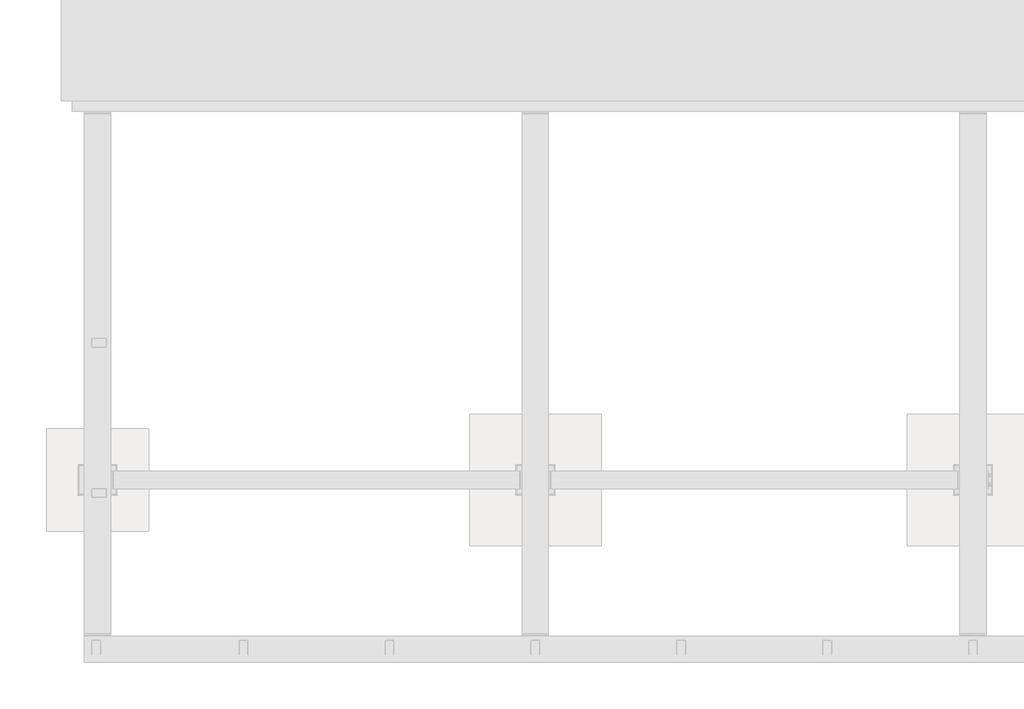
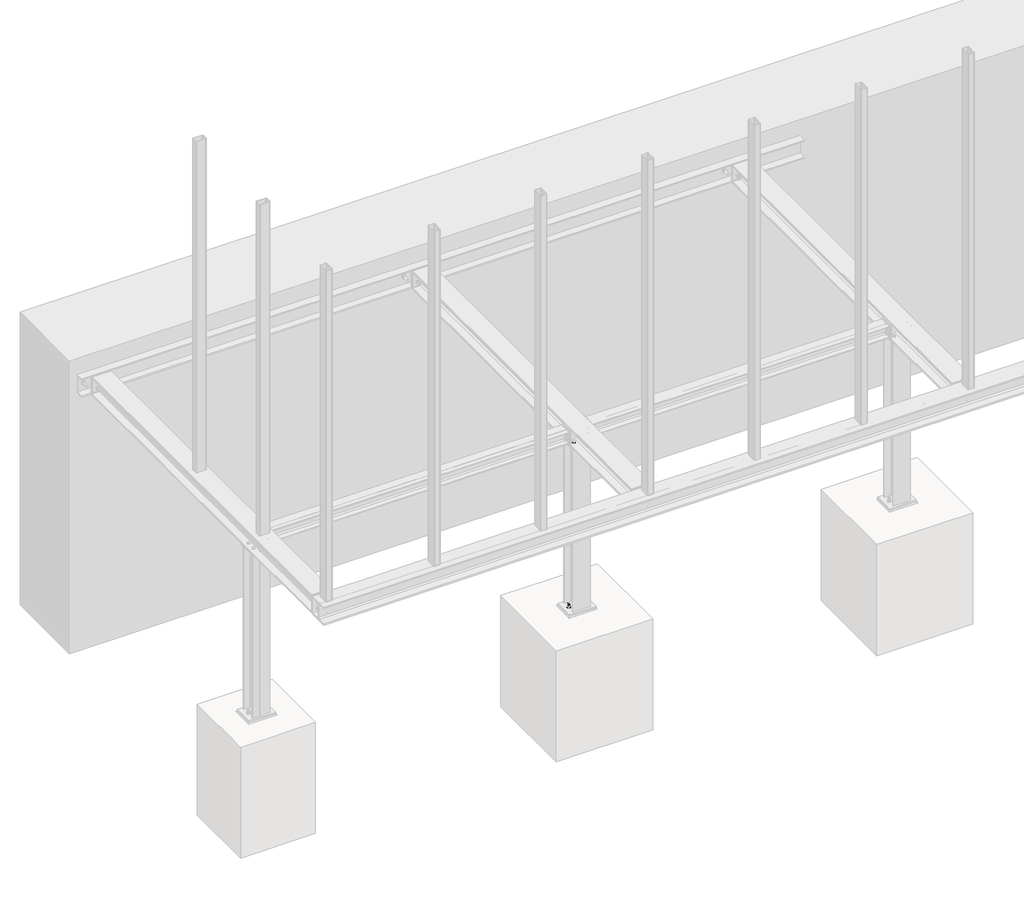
# One storey, part 19 of 31: 4 assemblies.
"""IFC4 building model written with IfcOpenShell, lengths in millimetres."""

import ifcopenshell
import ifcopenshell.guid

model = None  # the IFC model being written
_history = None  # IfcOwnerHistory: only IFC2X3 demands one
_inside = {}  # id of a spatial element -> (the spatial element, [elements in it])
_under = {}  # id of a project, library or spatial element -> (it, [spatial elements below it])
_declared = {}  # id of a project -> (the project, [libraries it declares])
_typed = {}  # id of a type object -> (the type object, [elements of that type])
_made_of = {}  # id of a material, layer set ... -> (it, [elements and type objects made of it])


def new_model(schema):
    """Start an empty IFC model of exactly this schema.

    Asked for "IFC4X3", IfcOpenShell would pick the latest addendum, in which some entities
    have other attributes; the version numbers below select the first issue.
    IFC2X3 requires an IfcOwnerHistory on every rooted entity: one is made here for all.
    """
    global model, _history
    if schema == "IFC4X3":
        model = ifcopenshell.file(schema_version=(4, 3, 0, 0))
    else:
        model = ifcopenshell.file(schema=schema)
    _inside.clear()
    _under.clear()
    _declared.clear()
    _typed.clear()
    _made_of.clear()
    _history = None
    if model.schema == "IFC2X3":
        org = make("IfcOrganization", Name="unknown")
        user = make(
            "IfcPersonAndOrganization",
            ThePerson=make("IfcPerson", FamilyName="unknown"),
            TheOrganization=org,
        )
        app = make(
            "IfcApplication",
            ApplicationDeveloper=org,
            Version="unknown",
            ApplicationFullName="unknown",
            ApplicationIdentifier="unknown",
        )
        _history = make(
            "IfcOwnerHistory",
            OwningUser=user,
            OwningApplication=app,
            ChangeAction="ADDED",
            CreationDate=0,
        )
    return model


def make(cls, **values):
    """One entity of the class cls with the attributes given. An attribute that is None is left unset."""
    return model.create_entity(
        cls, **{name: value for name, value in values.items() if value is not None}
    )


def rooted(cls, **values):
    """An entity with a GlobalId (a new one), such as an element, a storey or a relation."""
    return make(cls, GlobalId=ifcopenshell.guid.new(), OwnerHistory=_history, **values)


def si_unit(unit_type, name, prefix=None):
    """IfcSIUnit, for example si_unit("LENGTHUNIT", "METRE", prefix="MILLI")."""
    return make("IfcSIUnit", UnitType=unit_type, Prefix=prefix, Name=name)


def assignment(units):
    """IfcUnitAssignment: the units of a project."""
    return None if units is None else make("IfcUnitAssignment", Units=units)


def point(xyz):
    """IfcCartesianPoint."""
    return None if xyz is None else make("IfcCartesianPoint", Coordinates=xyz)


def direction(xyz):
    """IfcDirection."""
    return None if xyz is None else make("IfcDirection", DirectionRatios=xyz)


def frame(location, z_axis=None, x_axis=None):
    """IfcAxis2Placement3D, a coordinate frame: its origin and axes. An axis left out is left unset."""
    return make(
        "IfcAxis2Placement3D",
        Location=point(location),
        Axis=direction(z_axis),
        RefDirection=direction(x_axis),
    )


def frame_2d(location, x_axis=None):
    """IfcAxis2Placement2D, a coordinate frame in the plane: its origin and x axis."""
    return make(
        "IfcAxis2Placement2D", Location=point(location), RefDirection=direction(x_axis)
    )


def origin():
    """The frame at (0, 0, 0) with its axes left unset."""
    return frame((0.0, 0.0, 0.0))


def place(relative_to, where):
    """IfcLocalPlacement: puts the frame where relative to a parent placement (None: the world)."""
    return make(
        "IfcLocalPlacement", PlacementRelTo=relative_to, RelativePlacement=where
    )


def context(
    kind, dimensions, precision=None, world=None, true_north=None, identifier=None
):
    """IfcGeometricRepresentationContext, for example the 3D "Model" context."""
    return make(
        "IfcGeometricRepresentationContext",
        ContextIdentifier=identifier,
        ContextType=kind,
        CoordinateSpaceDimension=dimensions,
        Precision=precision,
        WorldCoordinateSystem=world,
        TrueNorth=true_north,
    )


def project(units=None, contexts=None):
    """IfcProject with its units and contexts."""
    return rooted(
        "IfcProject",
        Name="project",
        RepresentationContexts=contexts,
        UnitsInContext=assignment(units),
    )


def spatial(cls, under=None, at=None, **own):
    """A site, building, storey or space (cls), placed at a placement, below another one or the project."""
    s = rooted(cls, ObjectPlacement=at, **own)
    if under is not None:
        _under.setdefault(under.id(), (under, []))[1].append(s)
    return s


def polyline(points):
    """IfcPolyline through the points."""
    return make("IfcPolyline", Points=[point(p) for p in points])


def circle_curve(where, radius):
    """IfcCircle in the frame where."""
    return make("IfcCircle", Position=where, Radius=radius)


def trimmed(basis, trim1, trim2, sense, master):
    """IfcTrimmedCurve: the piece of a basis curve between two trims."""
    return make(
        "IfcTrimmedCurve",
        BasisCurve=basis,
        Trim1=trim1,
        Trim2=trim2,
        SenseAgreement=sense,
        MasterRepresentation=master,
    )


def segment(curve, same_sense, transition):
    """IfcCompositeCurveSegment."""
    return make(
        "IfcCompositeCurveSegment",
        Transition=transition,
        SameSense=same_sense,
        ParentCurve=curve,
    )


def composite_curve(segments, self_intersect=None):
    """IfcCompositeCurve: segments joined end to end."""
    return make("IfcCompositeCurve", Segments=segments, SelfIntersect=self_intersect)


def outline(outer, holes=None, kind="AREA"):
    """IfcArbitraryClosedProfileDef: a profile drawn as a closed curve; with holes, ...WithVoids."""
    if holes is None:
        return make("IfcArbitraryClosedProfileDef", ProfileType=kind, OuterCurve=outer)
    return make(
        "IfcArbitraryProfileDefWithVoids",
        ProfileType=kind,
        OuterCurve=outer,
        InnerCurves=holes,
    )


def extrude(swept, where, along, depth):
    """IfcExtrudedAreaSolid: the profile swept, set in the frame where, extruded along a direction by depth."""
    return make(
        "IfcExtrudedAreaSolid",
        SweptArea=swept,
        Position=where,
        ExtrudedDirection=direction(along),
        Depth=depth,
    )


def faces_of(points, faces, orient=None, outer=None):
    """IfcFace entities. A face is a list of loops; a loop is a list of indices into points, from 0.

    orient and outer hold one flag for each loop. By default every Orientation is true, the
    first loop of a face is its IfcFaceOuterBound and the others are IfcFaceBound.
    """
    made = []
    for i, loops in enumerate(faces):
        bounds = []
        for j, loop in enumerate(loops):
            is_outer = j == 0 if outer is None else outer[i][j]
            bounds.append(
                make(
                    "IfcFaceOuterBound" if is_outer else "IfcFaceBound",
                    Bound=make("IfcPolyLoop", Polygon=[points[k] for k in loop]),
                    Orientation=True if orient is None else orient[i][j],
                )
            )
        made.append(make("IfcFace", Bounds=bounds))
    return made


def faceted_brep(points, faces, orient=None, outer=None, voids=None):
    """IfcFacetedBrep: a solid bounded by flat faces; with voids (closed shells), ...WithVoids."""
    shared = [point(p) for p in points]
    hull = make("IfcClosedShell", CfsFaces=faces_of(shared, faces, orient, outer))
    if voids is None:
        return make("IfcFacetedBrep", Outer=hull)
    return make(
        "IfcFacetedBrepWithVoids",
        Outer=hull,
        Voids=[
            make(cls, CfsFaces=faces_of(shared, fs, o, b)) for cls, fs, o, b in voids
        ],
    )


def shape(context_of_items, identifier, shape_type, items):
    """IfcShapeRepresentation: the items that make up one representation, for example the "Body"."""
    return make(
        "IfcShapeRepresentation",
        ContextOfItems=context_of_items,
        RepresentationIdentifier=identifier,
        RepresentationType=shape_type,
        Items=items,
    )


def made_of(thing, what):
    """Note that an element or type object is made of a material, layer set ...; save() writes the relation."""
    if what is not None:
        _made_of.setdefault(what.id(), (what, []))[1].append(thing)
    return thing


def element(
    cls,
    number,
    at=None,
    inside=None,
    cuts=None,
    type_object=None,
    material=None,
    context=None,
    identifier="Body",
    shape_type=None,
    held_by="IfcProductDefinitionShape",
    body=None,
    shapes=None,
    **own,
):
    """One element of the class cls, such as IfcWall. Its Tag is "e" and its number.

    at: its placement. inside: the storey or other place that contains it. cuts: it is an
    opening in that element (IfcRelVoidsElement). A single representation is given by context,
    identifier, shape_type and body (its items); several are given by shapes. held_by: the class
    of the entity that holds the representations. save() writes the other relations.
    """
    e = rooted(cls, Tag="e%d" % number, ObjectPlacement=at, **own)
    if body is not None:
        shapes = [shape(context, identifier, shape_type, body)]
    if shapes is not None:
        e.Representation = make(held_by, Representations=shapes)
    if inside is not None:
        _inside.setdefault(inside.id(), (inside, []))[1].append(e)
    if cuts is not None:
        rooted(
            "IfcRelVoidsElement", RelatingBuildingElement=cuts, RelatedOpeningElement=e
        )
    if type_object is not None:
        _typed.setdefault(type_object.id(), (type_object, []))[1].append(e)
    return made_of(e, material)


def aggregate(whole, parts):
    """IfcRelAggregates: a whole, such as a stair, and the parts it consists of."""
    return rooted("IfcRelAggregates", RelatingObject=whole, RelatedObjects=parts)


def save(model, path):
    """Write the relations noted so far, then the file.

    IfcRelAggregates (storeys below a building ...), IfcRelContainedInSpatialStructure (elements
    in a storey), IfcRelDefinesByType, IfcRelAssociatesMaterial and IfcRelDeclares: one each for
    every whole, place, type object, material and project.
    """
    for whole, parts in _under.values():
        aggregate(whole, parts)
    for where, things in _inside.values():
        rooted(
            "IfcRelContainedInSpatialStructure",
            RelatedElements=things,
            RelatingStructure=where,
        )
    for kind, things in _typed.values():
        rooted("IfcRelDefinesByType", RelatedObjects=things, RelatingType=kind)
    for what, things in _made_of.values():
        rooted("IfcRelAssociatesMaterial", RelatedObjects=things, RelatingMaterial=what)
    for by, libraries in _declared.values():
        rooted("IfcRelDeclares", RelatingContext=by, RelatedDefinitions=libraries)
    model.write(path)


model = new_model("IFC4")

# Units and contexts
model_context = context("Model", 3, world=origin())
ifc_project = project(units=[si_unit("LENGTHUNIT", "METRE", prefix="MILLI")], contexts=[model_context])

# Site, building, storey
site = spatial("IfcSite", under=ifc_project)
building = spatial("IfcBuilding", under=site)
storey = spatial("IfcBuildingStorey", under=building, Name="Základy", Elevation=-1200.0)

# Assemblies
placement = place(None, origin())
element("IfcElementAssembly", 1, at=placement, inside=storey, context=model_context, shape_type="SweptSolid", body=[
    extrude(outline(composite_curve([segment(polyline([(4073.6, 60.0), (4026.4, 60.0)]), True, "CONTINUOUS"), segment(trimmed(circle_curve(frame_2d((4026.4, 66.4)), 6.4), [point((4026.4, 60.0))], [point((4020.0, 66.4))], False, "CARTESIAN"), True, "CONTINUOUS"), segment(polyline([(4020.0, 66.4), (4020.0, 153.6)]), True, "CONTINUOUS"), segment(trimmed(circle_curve(frame_2d((4026.4, 153.6)), 6.4), [point((4020.0, 153.6))], [point((4026.4, 160.0))], False, "CARTESIAN"), True, "CONTINUOUS"), segment(polyline([(4026.4, 160.0), (4073.6, 160.0)]), True, "CONTINUOUS"), segment(trimmed(circle_curve(frame_2d((4073.6, 153.6)), 6.4), [point((4073.6, 160.0))], [point((4080.0, 153.6))], False, "CARTESIAN"), True, "CONTINUOUS"), segment(polyline([(4080.0, 153.6), (4080.0, 66.4)]), True, "CONTINUOUS"), segment(trimmed(circle_curve(frame_2d((4073.6, 66.4)), 6.4), [point((4080.0, 66.4))], [point((4073.6, 60.0))], False, "CARTESIAN"), True, "CONTINUOUS")], self_intersect=False), holes=[composite_curve([segment(trimmed(circle_curve(frame_2d((4073.6, 66.4)), 3.2), [point((4073.6, 63.2))], [point((4076.8, 66.4))], True, "CARTESIAN"), True, "CONTINUOUS"), segment(polyline([(4076.8, 66.4), (4076.8, 153.6)]), True, "CONTINUOUS"), segment(trimmed(circle_curve(frame_2d((4073.6, 153.6)), 3.2), [point((4076.8, 153.6))], [point((4073.6, 156.8))], True, "CARTESIAN"), True, "CONTINUOUS"), segment(polyline([(4073.6, 156.8), (4026.4, 156.8)]), True, "CONTINUOUS"), segment(trimmed(circle_curve(frame_2d((4026.4, 153.6)), 3.2), [point((4026.4, 156.8))], [point((4023.2, 153.6))], True, "CARTESIAN"), True, "CONTINUOUS"), segment(polyline([(4023.2, 153.6), (4023.2, 66.4)]), True, "CONTINUOUS"), segment(trimmed(circle_curve(frame_2d((4026.4, 66.4)), 3.2), [point((4023.2, 66.4))], [point((4026.4, 63.2))], True, "CARTESIAN"), True, "CONTINUOUS"), segment(polyline([(4026.4, 63.2), (4073.6, 63.2)]), True, "CONTINUOUS")], self_intersect=False)]), frame((0.0, 0.0, -160.0), z_axis=(0.0, 0.0, 1.0), x_axis=(1.0, 0.0, 0.0)), (0.0, 0.0, 1.0), 3320.0),
])
element("IfcElementAssembly", 2, at=placement, inside=storey, context=model_context, shape_type="SweptSolid", body=[
    extrude(outline(composite_curve([segment(polyline([(3130.0, 1184.0), (2970.0, 1184.0), (2970.0, 1193.0), (3032.0, 1193.0)]), True, "CONTINUOUS"), segment(trimmed(circle_curve(frame_2d((3032.0, 1208.0)), 15.0), [point((3032.0, 1193.0))], [point((3047.0, 1208.0))], True, "CARTESIAN"), True, "CONTINUOUS"), segment(polyline([(3047.0, 1208.0), (3047.0, 1312.0)]), True, "CONTINUOUS"), segment(trimmed(circle_curve(frame_2d((3032.0, 1312.0)), 15.0), [point((3047.0, 1312.0))], [point((3032.0, 1327.0))], True, "CARTESIAN"), True, "CONTINUOUS"), segment(polyline([(3032.0, 1327.0), (2970.0, 1327.0), (2970.0, 1336.0), (3130.0, 1336.0), (3130.0, 1327.0), (3068.0, 1327.0)]), True, "CONTINUOUS"), segment(trimmed(circle_curve(frame_2d((3068.0, 1312.0)), 15.0), [point((3068.0, 1327.0))], [point((3053.0, 1312.0))], True, "CARTESIAN"), True, "CONTINUOUS"), segment(polyline([(3053.0, 1312.0), (3053.0, 1208.0)]), True, "CONTINUOUS"), segment(trimmed(circle_curve(frame_2d((3068.0, 1208.0)), 15.0), [point((3053.0, 1208.0))], [point((3068.0, 1193.0))], True, "CARTESIAN"), True, "CONTINUOUS"), segment(polyline([(3068.0, 1193.0), (3130.0, 1193.0), (3130.0, 1184.0)]), True, "CONTINUOUS")], self_intersect=False)), frame((0.0, 0.0, -1975.0), z_axis=(0.0, 0.0, 1.0), x_axis=(1.0, 0.0, 0.0)), (0.0, 0.0, 1.0), 1625.0),
    extrude(outline(polyline([(3175.0, 1356.0), (3175.0, 1164.0), (2925.0, 1164.0), (2925.0, 1356.0), (3175.0, 1356.0)])), frame((0.0, 0.0, -1990.0), z_axis=(0.0, 0.0, 1.0), x_axis=(1.0, 0.0, 0.0)), (0.0, 0.0, 1.0), 15.0),
    extrude(outline(polyline([(3140.0, 1346.0), (3140.0, 1174.0), (2960.0, 1174.0), (2960.0, 1346.0), (3140.0, 1346.0)])), frame((0.0, 0.0, -350.0), z_axis=(0.0, 0.0, 1.0), x_axis=(1.0, 0.0, 0.0)), (0.0, 0.0, 1.0), 10.0),
    extrude(outline(polyline([(2982.7364934, 1260.0), (2978.8682467, 1253.3000002), (2971.1317533, 1253.3000002), (2967.2635066, 1260.0), (2971.1317533, 1266.6999998), (2978.8682467, 1266.6999998), (2982.7364934, 1260.0)])), frame((0.0, 0.0, -2122.0), z_axis=(0.0, 0.0, 1.0), x_axis=(1.0, 0.0, 0.0)), (0.0, 0.0, 1.0), 132.0),
    extrude(outline(composite_curve([segment(trimmed(circle_curve(frame_2d((2975.0, 1260.0)), 8.0), [point((2983.0, 1260.0))], [point((2967.0, 1260.0))], False, "CARTESIAN"), True, "CONTINUOUS"), segment(trimmed(circle_curve(frame_2d((2975.0, 1260.0)), 8.0), [point((2967.0, 1260.0))], [point((2983.0, 1260.0))], False, "CARTESIAN"), True, "CONTINUOUS")], self_intersect=False)), frame((0.0, 0.0, -1990.0), z_axis=(0.0, 0.0, 1.0), x_axis=(1.0, 0.0, 0.0)), (0.0, 0.0, 1.0), 58.0),
    extrude(outline(composite_curve([segment(trimmed(circle_curve(frame_2d((2975.0, 1260.0)), 15.0), [point((2990.0, 1260.0))], [point((2960.0, 1260.0))], False, "CARTESIAN"), True, "CONTINUOUS"), segment(trimmed(circle_curve(frame_2d((2975.0, 1260.0)), 15.0), [point((2960.0, 1260.0))], [point((2990.0, 1260.0))], False, "CARTESIAN"), True, "CONTINUOUS")], self_intersect=False)), frame((0.0, 0.0, -1975.0), z_axis=(0.0, 0.0, 1.0), x_axis=(1.0, 0.0, 0.0)), (0.0, 0.0, 1.0), 3.0),
    extrude(outline(polyline([(2990.4441197, 1260.0), (2982.7220599, 1246.625), (2967.2779401, 1246.625), (2959.5558803, 1260.0), (2967.2779401, 1273.375), (2982.7220599, 1273.375), (2990.4441197, 1260.0)])), frame((0.0, 0.0, -1972.0), z_axis=(0.0, 0.0, 1.0), x_axis=(1.0, 0.0, 0.0)), (0.0, 0.0, 1.0), 13.0),
    extrude(outline(composite_curve([segment(trimmed(circle_curve(frame_2d((2975.0, 1260.0)), 9.0), [point((2984.0, 1260.0))], [point((2966.0, 1260.0))], False, "CARTESIAN"), True, "CONTINUOUS"), segment(trimmed(circle_curve(frame_2d((2975.0, 1260.0)), 9.0), [point((2966.0, 1260.0))], [point((2984.0, 1260.0))], False, "CARTESIAN"), True, "CONTINUOUS")], self_intersect=False)), frame((0.0, 0.0, -1990.0), z_axis=(0.0, 0.0, 1.0), x_axis=(1.0, 0.0, 0.0)), (0.0, 0.0, 1.0), 15.1),
    extrude(outline(polyline([(3132.7364934, 1260.0), (3128.8682467, 1253.3000002), (3121.1317533, 1253.3000002), (3117.2635066, 1260.0), (3121.1317533, 1266.6999998), (3128.8682467, 1266.6999998), (3132.7364934, 1260.0)])), frame((0.0, 0.0, -2122.0), z_axis=(0.0, 0.0, 1.0), x_axis=(1.0, 0.0, 0.0)), (0.0, 0.0, 1.0), 132.0),
    extrude(outline(composite_curve([segment(trimmed(circle_curve(frame_2d((3125.0, 1260.0)), 8.0), [point((3133.0, 1260.0))], [point((3117.0, 1260.0))], False, "CARTESIAN"), True, "CONTINUOUS"), segment(trimmed(circle_curve(frame_2d((3125.0, 1260.0)), 8.0), [point((3117.0, 1260.0))], [point((3133.0, 1260.0))], False, "CARTESIAN"), True, "CONTINUOUS")], self_intersect=False)), frame((0.0, 0.0, -1990.0), z_axis=(0.0, 0.0, 1.0), x_axis=(1.0, 0.0, 0.0)), (0.0, 0.0, 1.0), 58.0),
    extrude(outline(composite_curve([segment(trimmed(circle_curve(frame_2d((3125.0, 1260.0)), 15.0), [point((3140.0, 1260.0))], [point((3110.0, 1260.0))], False, "CARTESIAN"), True, "CONTINUOUS"), segment(trimmed(circle_curve(frame_2d((3125.0, 1260.0)), 15.0), [point((3110.0, 1260.0))], [point((3140.0, 1260.0))], False, "CARTESIAN"), True, "CONTINUOUS")], self_intersect=False)), frame((0.0, 0.0, -1975.0), z_axis=(0.0, 0.0, 1.0), x_axis=(1.0, 0.0, 0.0)), (0.0, 0.0, 1.0), 3.0),
    extrude(outline(polyline([(3140.4441197, 1260.0), (3132.7220599, 1246.625), (3117.2779401, 1246.625), (3109.5558803, 1260.0), (3117.2779401, 1273.375), (3132.7220599, 1273.375), (3140.4441197, 1260.0)])), frame((0.0, 0.0, -1972.0), z_axis=(0.0, 0.0, 1.0), x_axis=(1.0, 0.0, 0.0)), (0.0, 0.0, 1.0), 13.0),
    extrude(outline(composite_curve([segment(trimmed(circle_curve(frame_2d((3125.0, 1260.0)), 9.0), [point((3134.0, 1260.0))], [point((3116.0, 1260.0))], False, "CARTESIAN"), True, "CONTINUOUS"), segment(trimmed(circle_curve(frame_2d((3125.0, 1260.0)), 9.0), [point((3116.0, 1260.0))], [point((3134.0, 1260.0))], False, "CARTESIAN"), True, "CONTINUOUS")], self_intersect=False)), frame((0.0, 0.0, -1990.0), z_axis=(0.0, 0.0, 1.0), x_axis=(1.0, 0.0, 0.0)), (0.0, 0.0, 1.0), 15.1),
    extrude(outline(composite_curve([segment(trimmed(circle_curve(frame_2d((3000.0, 1220.0)), 6.5), [point((3006.5, 1220.0))], [point((2993.5, 1220.0))], False, "CARTESIAN"), True, "CONTINUOUS"), segment(trimmed(circle_curve(frame_2d((3000.0, 1220.0)), 6.5), [point((2993.5, 1220.0))], [point((3006.5, 1220.0))], False, "CARTESIAN"), True, "CONTINUOUS")], self_intersect=False)), frame((0.0, 0.0, -350.0), z_axis=(0.0, 0.0, 1.0), x_axis=(1.0, 0.0, 0.0)), (0.0, 0.0, 1.0), 10.1),
    extrude(outline(polyline([(3010.3923048, 1220.0), (3005.1961524, 1211.0), (2994.8038476, 1211.0), (2989.6076952, 1220.0), (2994.8038476, 1229.0), (3005.1961524, 1229.0), (3010.3923048, 1220.0)])), frame((0.0, 0.0, -323.5), z_axis=(0.0, 0.0, 1.0), x_axis=(1.0, 0.0, 0.0)), (0.0, 0.0, 1.0), 7.5),
    extrude(outline(composite_curve([segment(trimmed(circle_curve(frame_2d((3000.0, 1220.0)), 6.0), [point((3006.0, 1220.0))], [point((2994.0, 1220.0))], False, "CARTESIAN"), True, "CONTINUOUS"), segment(trimmed(circle_curve(frame_2d((3000.0, 1220.0)), 6.0), [point((2994.0, 1220.0))], [point((3006.0, 1220.0))], False, "CARTESIAN"), True, "CONTINUOUS")], self_intersect=False)), frame((0.0, 0.0, -368.5), z_axis=(0.0, 0.0, 1.0), x_axis=(1.0, 0.0, 0.0)), (0.0, 0.0, 1.0), 45.0),
    extrude(outline(composite_curve([segment(trimmed(circle_curve(frame_2d((3000.0, 1220.0)), 12.0), [point((3012.0, 1220.0))], [point((2988.0, 1220.0))], False, "CARTESIAN"), True, "CONTINUOUS"), segment(trimmed(circle_curve(frame_2d((3000.0, 1220.0)), 12.0), [point((2988.0, 1220.0))], [point((3012.0, 1220.0))], False, "CARTESIAN"), True, "CONTINUOUS")], self_intersect=False)), frame((0.0, 0.0, -326.0), z_axis=(0.0, 0.0, 1.0), x_axis=(1.0, 0.0, 0.0)), (0.0, 0.0, 1.0), 2.5),
    extrude(outline(composite_curve([segment(trimmed(circle_curve(frame_2d((3000.0, 1220.0)), 12.0), [point((3012.0, 1220.0))], [point((2988.0, 1220.0))], False, "CARTESIAN"), True, "CONTINUOUS"), segment(trimmed(circle_curve(frame_2d((3000.0, 1220.0)), 12.0), [point((2988.0, 1220.0))], [point((3012.0, 1220.0))], False, "CARTESIAN"), True, "CONTINUOUS")], self_intersect=False)), frame((0.0, 0.0, -352.5), z_axis=(0.0, 0.0, 1.0), x_axis=(1.0, 0.0, 0.0)), (0.0, 0.0, 1.0), 2.5),
    extrude(outline(polyline([(3010.9696551, 1220.0), (3005.4848276, 1210.5), (2994.5151724, 1210.5), (2989.0303449, 1220.0), (2994.5151724, 1229.5), (3005.4848276, 1229.5), (3010.9696551, 1220.0)])), frame((0.0, 0.0, -362.5), z_axis=(0.0, 0.0, 1.0), x_axis=(1.0, 0.0, 0.0)), (0.0, 0.0, 1.0), 10.0),
    extrude(outline(composite_curve([segment(trimmed(circle_curve(frame_2d((3000.0, 1220.0)), 6.5), [point((3006.5, 1220.0))], [point((2993.5, 1220.0))], False, "CARTESIAN"), True, "CONTINUOUS"), segment(trimmed(circle_curve(frame_2d((3000.0, 1220.0)), 6.5), [point((2993.5, 1220.0))], [point((3006.5, 1220.0))], False, "CARTESIAN"), True, "CONTINUOUS")], self_intersect=False)), frame((0.0, 0.0, -340.1), z_axis=(0.0, 0.0, 1.0), x_axis=(1.0, 0.0, 0.0)), (0.0, 0.0, 1.0), 14.0),
    extrude(outline(composite_curve([segment(trimmed(circle_curve(frame_2d((3100.0, 1220.0)), 6.5), [point((3106.5, 1220.0))], [point((3093.5, 1220.0))], False, "CARTESIAN"), True, "CONTINUOUS"), segment(trimmed(circle_curve(frame_2d((3100.0, 1220.0)), 6.5), [point((3093.5, 1220.0))], [point((3106.5, 1220.0))], False, "CARTESIAN"), True, "CONTINUOUS")], self_intersect=False)), frame((0.0, 0.0, -350.0), z_axis=(0.0, 0.0, 1.0), x_axis=(1.0, 0.0, 0.0)), (0.0, 0.0, 1.0), 10.1),
    extrude(outline(polyline([(3110.3923048, 1220.0), (3105.1961524, 1211.0), (3094.8038476, 1211.0), (3089.6076952, 1220.0), (3094.8038476, 1229.0), (3105.1961524, 1229.0), (3110.3923048, 1220.0)])), frame((0.0, 0.0, -323.5), z_axis=(0.0, 0.0, 1.0), x_axis=(1.0, 0.0, 0.0)), (0.0, 0.0, 1.0), 7.5),
    extrude(outline(composite_curve([segment(trimmed(circle_curve(frame_2d((3100.0, 1220.0)), 6.0), [point((3106.0, 1220.0))], [point((3094.0, 1220.0))], False, "CARTESIAN"), True, "CONTINUOUS"), segment(trimmed(circle_curve(frame_2d((3100.0, 1220.0)), 6.0), [point((3094.0, 1220.0))], [point((3106.0, 1220.0))], False, "CARTESIAN"), True, "CONTINUOUS")], self_intersect=False)), frame((0.0, 0.0, -368.5), z_axis=(0.0, 0.0, 1.0), x_axis=(1.0, 0.0, 0.0)), (0.0, 0.0, 1.0), 45.0),
    extrude(outline(composite_curve([segment(trimmed(circle_curve(frame_2d((3100.0, 1220.0)), 12.0), [point((3112.0, 1220.0))], [point((3088.0, 1220.0))], False, "CARTESIAN"), True, "CONTINUOUS"), segment(trimmed(circle_curve(frame_2d((3100.0, 1220.0)), 12.0), [point((3088.0, 1220.0))], [point((3112.0, 1220.0))], False, "CARTESIAN"), True, "CONTINUOUS")], self_intersect=False)), frame((0.0, 0.0, -326.0), z_axis=(0.0, 0.0, 1.0), x_axis=(1.0, 0.0, 0.0)), (0.0, 0.0, 1.0), 2.5),
    extrude(outline(composite_curve([segment(trimmed(circle_curve(frame_2d((3100.0, 1220.0)), 12.0), [point((3112.0, 1220.0))], [point((3088.0, 1220.0))], False, "CARTESIAN"), True, "CONTINUOUS"), segment(trimmed(circle_curve(frame_2d((3100.0, 1220.0)), 12.0), [point((3088.0, 1220.0))], [point((3112.0, 1220.0))], False, "CARTESIAN"), True, "CONTINUOUS")], self_intersect=False)), frame((0.0, 0.0, -352.5), z_axis=(0.0, 0.0, 1.0), x_axis=(1.0, 0.0, 0.0)), (0.0, 0.0, 1.0), 2.5),
    extrude(outline(polyline([(3110.9696551, 1220.0), (3105.4848276, 1210.5), (3094.5151724, 1210.5), (3089.0303449, 1220.0), (3094.5151724, 1229.5), (3105.4848276, 1229.5), (3110.9696551, 1220.0)])), frame((0.0, 0.0, -362.5), z_axis=(0.0, 0.0, 1.0), x_axis=(1.0, 0.0, 0.0)), (0.0, 0.0, 1.0), 10.0),
    extrude(outline(composite_curve([segment(trimmed(circle_curve(frame_2d((3100.0, 1220.0)), 6.5), [point((3106.5, 1220.0))], [point((3093.5, 1220.0))], False, "CARTESIAN"), True, "CONTINUOUS"), segment(trimmed(circle_curve(frame_2d((3100.0, 1220.0)), 6.5), [point((3093.5, 1220.0))], [point((3106.5, 1220.0))], False, "CARTESIAN"), True, "CONTINUOUS")], self_intersect=False)), frame((0.0, 0.0, -340.1), z_axis=(0.0, 0.0, 1.0), x_axis=(1.0, 0.0, 0.0)), (0.0, 0.0, 1.0), 14.0),
    extrude(outline(composite_curve([segment(trimmed(circle_curve(frame_2d((3000.0, 1300.0)), 6.5), [point((3006.5, 1300.0))], [point((2993.5, 1300.0))], False, "CARTESIAN"), True, "CONTINUOUS"), segment(trimmed(circle_curve(frame_2d((3000.0, 1300.0)), 6.5), [point((2993.5, 1300.0))], [point((3006.5, 1300.0))], False, "CARTESIAN"), True, "CONTINUOUS")], self_intersect=False)), frame((0.0, 0.0, -350.0), z_axis=(0.0, 0.0, 1.0), x_axis=(1.0, 0.0, 0.0)), (0.0, 0.0, 1.0), 10.1),
    extrude(outline(polyline([(3010.3923048, 1300.0), (3005.1961524, 1291.0), (2994.8038476, 1291.0), (2989.6076952, 1300.0), (2994.8038476, 1309.0), (3005.1961524, 1309.0), (3010.3923048, 1300.0)])), frame((0.0, 0.0, -323.5), z_axis=(0.0, 0.0, 1.0), x_axis=(1.0, 0.0, 0.0)), (0.0, 0.0, 1.0), 7.5),
    extrude(outline(composite_curve([segment(trimmed(circle_curve(frame_2d((3000.0, 1300.0)), 6.0), [point((3006.0, 1300.0))], [point((2994.0, 1300.0))], False, "CARTESIAN"), True, "CONTINUOUS"), segment(trimmed(circle_curve(frame_2d((3000.0, 1300.0)), 6.0), [point((2994.0, 1300.0))], [point((3006.0, 1300.0))], False, "CARTESIAN"), True, "CONTINUOUS")], self_intersect=False)), frame((0.0, 0.0, -368.5), z_axis=(0.0, 0.0, 1.0), x_axis=(1.0, 0.0, 0.0)), (0.0, 0.0, 1.0), 45.0),
    extrude(outline(composite_curve([segment(trimmed(circle_curve(frame_2d((3000.0, 1300.0)), 12.0), [point((3012.0, 1300.0))], [point((2988.0, 1300.0))], False, "CARTESIAN"), True, "CONTINUOUS"), segment(trimmed(circle_curve(frame_2d((3000.0, 1300.0)), 12.0), [point((2988.0, 1300.0))], [point((3012.0, 1300.0))], False, "CARTESIAN"), True, "CONTINUOUS")], self_intersect=False)), frame((0.0, 0.0, -326.0), z_axis=(0.0, 0.0, 1.0), x_axis=(1.0, 0.0, 0.0)), (0.0, 0.0, 1.0), 2.5),
    extrude(outline(composite_curve([segment(trimmed(circle_curve(frame_2d((3000.0, 1300.0)), 12.0), [point((3012.0, 1300.0))], [point((2988.0, 1300.0))], False, "CARTESIAN"), True, "CONTINUOUS"), segment(trimmed(circle_curve(frame_2d((3000.0, 1300.0)), 12.0), [point((2988.0, 1300.0))], [point((3012.0, 1300.0))], False, "CARTESIAN"), True, "CONTINUOUS")], self_intersect=False)), frame((0.0, 0.0, -352.5), z_axis=(0.0, 0.0, 1.0), x_axis=(1.0, 0.0, 0.0)), (0.0, 0.0, 1.0), 2.5),
    extrude(outline(polyline([(3010.9696551, 1300.0), (3005.4848276, 1290.5), (2994.5151724, 1290.5), (2989.0303449, 1300.0), (2994.5151724, 1309.5), (3005.4848276, 1309.5), (3010.9696551, 1300.0)])), frame((0.0, 0.0, -362.5), z_axis=(0.0, 0.0, 1.0), x_axis=(1.0, 0.0, 0.0)), (0.0, 0.0, 1.0), 10.0),
    extrude(outline(composite_curve([segment(trimmed(circle_curve(frame_2d((3000.0, 1300.0)), 6.5), [point((3006.5, 1300.0))], [point((2993.5, 1300.0))], False, "CARTESIAN"), True, "CONTINUOUS"), segment(trimmed(circle_curve(frame_2d((3000.0, 1300.0)), 6.5), [point((2993.5, 1300.0))], [point((3006.5, 1300.0))], False, "CARTESIAN"), True, "CONTINUOUS")], self_intersect=False)), frame((0.0, 0.0, -340.1), z_axis=(0.0, 0.0, 1.0), x_axis=(1.0, 0.0, 0.0)), (0.0, 0.0, 1.0), 14.0),
    extrude(outline(composite_curve([segment(trimmed(circle_curve(frame_2d((3100.0, 1300.0)), 6.5), [point((3106.5, 1300.0))], [point((3093.5, 1300.0))], False, "CARTESIAN"), True, "CONTINUOUS"), segment(trimmed(circle_curve(frame_2d((3100.0, 1300.0)), 6.5), [point((3093.5, 1300.0))], [point((3106.5, 1300.0))], False, "CARTESIAN"), True, "CONTINUOUS")], self_intersect=False)), frame((0.0, 0.0, -350.0), z_axis=(0.0, 0.0, 1.0), x_axis=(1.0, 0.0, 0.0)), (0.0, 0.0, 1.0), 10.1),
    extrude(outline(polyline([(3110.3923048, 1300.0), (3105.1961524, 1291.0), (3094.8038476, 1291.0), (3089.6076952, 1300.0), (3094.8038476, 1309.0), (3105.1961524, 1309.0), (3110.3923048, 1300.0)])), frame((0.0, 0.0, -323.5), z_axis=(0.0, 0.0, 1.0), x_axis=(1.0, 0.0, 0.0)), (0.0, 0.0, 1.0), 7.5),
    extrude(outline(composite_curve([segment(trimmed(circle_curve(frame_2d((3100.0, 1300.0)), 6.0), [point((3106.0, 1300.0))], [point((3094.0, 1300.0))], False, "CARTESIAN"), True, "CONTINUOUS"), segment(trimmed(circle_curve(frame_2d((3100.0, 1300.0)), 6.0), [point((3094.0, 1300.0))], [point((3106.0, 1300.0))], False, "CARTESIAN"), True, "CONTINUOUS")], self_intersect=False)), frame((0.0, 0.0, -368.5), z_axis=(0.0, 0.0, 1.0), x_axis=(1.0, 0.0, 0.0)), (0.0, 0.0, 1.0), 45.0),
    extrude(outline(composite_curve([segment(trimmed(circle_curve(frame_2d((3100.0, 1300.0)), 12.0), [point((3112.0, 1300.0))], [point((3088.0, 1300.0))], False, "CARTESIAN"), True, "CONTINUOUS"), segment(trimmed(circle_curve(frame_2d((3100.0, 1300.0)), 12.0), [point((3088.0, 1300.0))], [point((3112.0, 1300.0))], False, "CARTESIAN"), True, "CONTINUOUS")], self_intersect=False)), frame((0.0, 0.0, -326.0), z_axis=(0.0, 0.0, 1.0), x_axis=(1.0, 0.0, 0.0)), (0.0, 0.0, 1.0), 2.5),
    extrude(outline(composite_curve([segment(trimmed(circle_curve(frame_2d((3100.0, 1300.0)), 12.0), [point((3112.0, 1300.0))], [point((3088.0, 1300.0))], False, "CARTESIAN"), True, "CONTINUOUS"), segment(trimmed(circle_curve(frame_2d((3100.0, 1300.0)), 12.0), [point((3088.0, 1300.0))], [point((3112.0, 1300.0))], False, "CARTESIAN"), True, "CONTINUOUS")], self_intersect=False)), frame((0.0, 0.0, -352.5), z_axis=(0.0, 0.0, 1.0), x_axis=(1.0, 0.0, 0.0)), (0.0, 0.0, 1.0), 2.5),
    extrude(outline(polyline([(3110.9696551, 1300.0), (3105.4848276, 1290.5), (3094.5151724, 1290.5), (3089.0303449, 1300.0), (3094.5151724, 1309.5), (3105.4848276, 1309.5), (3110.9696551, 1300.0)])), frame((0.0, 0.0, -362.5), z_axis=(0.0, 0.0, 1.0), x_axis=(1.0, 0.0, 0.0)), (0.0, 0.0, 1.0), 10.0),
    extrude(outline(composite_curve([segment(trimmed(circle_curve(frame_2d((3100.0, 1300.0)), 6.5), [point((3106.5, 1300.0))], [point((3093.5, 1300.0))], False, "CARTESIAN"), True, "CONTINUOUS"), segment(trimmed(circle_curve(frame_2d((3100.0, 1300.0)), 6.5), [point((3093.5, 1300.0))], [point((3106.5, 1300.0))], False, "CARTESIAN"), True, "CONTINUOUS")], self_intersect=False)), frame((0.0, 0.0, -340.1), z_axis=(0.0, 0.0, 1.0), x_axis=(1.0, 0.0, 0.0)), (0.0, 0.0, 1.0), 14.0),
])
element("IfcElementAssembly", 3, at=placement, inside=storey, context=model_context, shape_type="Brep", body=[
    faceted_brep([(2925.0, 1356.0, -1990.0), (2925.0, 1164.0, -1990.0), (3175.0, 1164.0, -1990.0), (3175.0, 1356.0, -1990.0), (3185.0, 1154.0, -2000.0), (2915.0, 1154.0, -2000.0), (2915.0, 1366.0, -2000.0), (3185.0, 1366.0, -2000.0)], [[[0, 1, 2, 3]], [[4, 5, 6, 7]], [[5, 4, 2, 1]], [[1, 0, 6, 5]], [[7, 6, 0, 3]], [[3, 2, 4, 7]]]),
])
element("IfcElementAssembly", 4, at=placement, inside=storey, context=model_context, shape_type="SweptSolid", body=[
    extrude(outline(composite_curve([segment(polyline([(110.0, 2223.6), (110.0, 2176.4)]), True, "CONTINUOUS"), segment(trimmed(circle_curve(frame_2d((103.6, 2176.4)), 6.4), [point((110.0, 2176.4))], [point((103.6, 2170.0))], False, "CARTESIAN"), True, "CONTINUOUS"), segment(polyline([(103.6, 2170.0), (16.4, 2170.0)]), True, "CONTINUOUS"), segment(trimmed(circle_curve(frame_2d((16.4, 2176.4)), 6.4), [point((16.4, 2170.0))], [point((10.0, 2176.4))], False, "CARTESIAN"), True, "CONTINUOUS"), segment(polyline([(10.0, 2176.4), (10.0, 2223.6)]), True, "CONTINUOUS"), segment(trimmed(circle_curve(frame_2d((16.4, 2223.6)), 6.4), [point((10.0, 2223.6))], [point((16.4, 2230.0))], False, "CARTESIAN"), True, "CONTINUOUS"), segment(polyline([(16.4, 2230.0), (103.6, 2230.0)]), True, "CONTINUOUS"), segment(trimmed(circle_curve(frame_2d((103.6, 2223.6)), 6.4), [point((103.6, 2230.0))], [point((110.0, 2223.6))], False, "CARTESIAN"), True, "CONTINUOUS")], self_intersect=False), holes=[composite_curve([segment(trimmed(circle_curve(frame_2d((103.6, 2223.6)), 3.2), [point((106.8, 2223.6))], [point((103.6, 2226.8))], True, "CARTESIAN"), True, "CONTINUOUS"), segment(polyline([(103.6, 2226.8), (16.4, 2226.8)]), True, "CONTINUOUS"), segment(trimmed(circle_curve(frame_2d((16.4, 2223.6)), 3.2), [point((16.4, 2226.8))], [point((13.2, 2223.6))], True, "CARTESIAN"), True, "CONTINUOUS"), segment(polyline([(13.2, 2223.6), (13.2, 2176.4)]), True, "CONTINUOUS"), segment(trimmed(circle_curve(frame_2d((16.4, 2176.4)), 3.2), [point((13.2, 2176.4))], [point((16.4, 2173.2))], True, "CARTESIAN"), True, "CONTINUOUS"), segment(polyline([(16.4, 2173.2), (103.6, 2173.2)]), True, "CONTINUOUS"), segment(trimmed(circle_curve(frame_2d((103.6, 2176.4)), 3.2), [point((103.6, 2173.2))], [point((106.8, 2176.4))], True, "CARTESIAN"), True, "CONTINUOUS"), segment(polyline([(106.8, 2176.4), (106.8, 2223.6)]), True, "CONTINUOUS")], self_intersect=False)]), frame((0.0, 0.0, -160.0), z_axis=(0.0, 0.0, 1.0), x_axis=(1.0, 0.0, 0.0)), (0.0, 0.0, 1.0), 3280.0),
])

save(model, "model.ifc")
